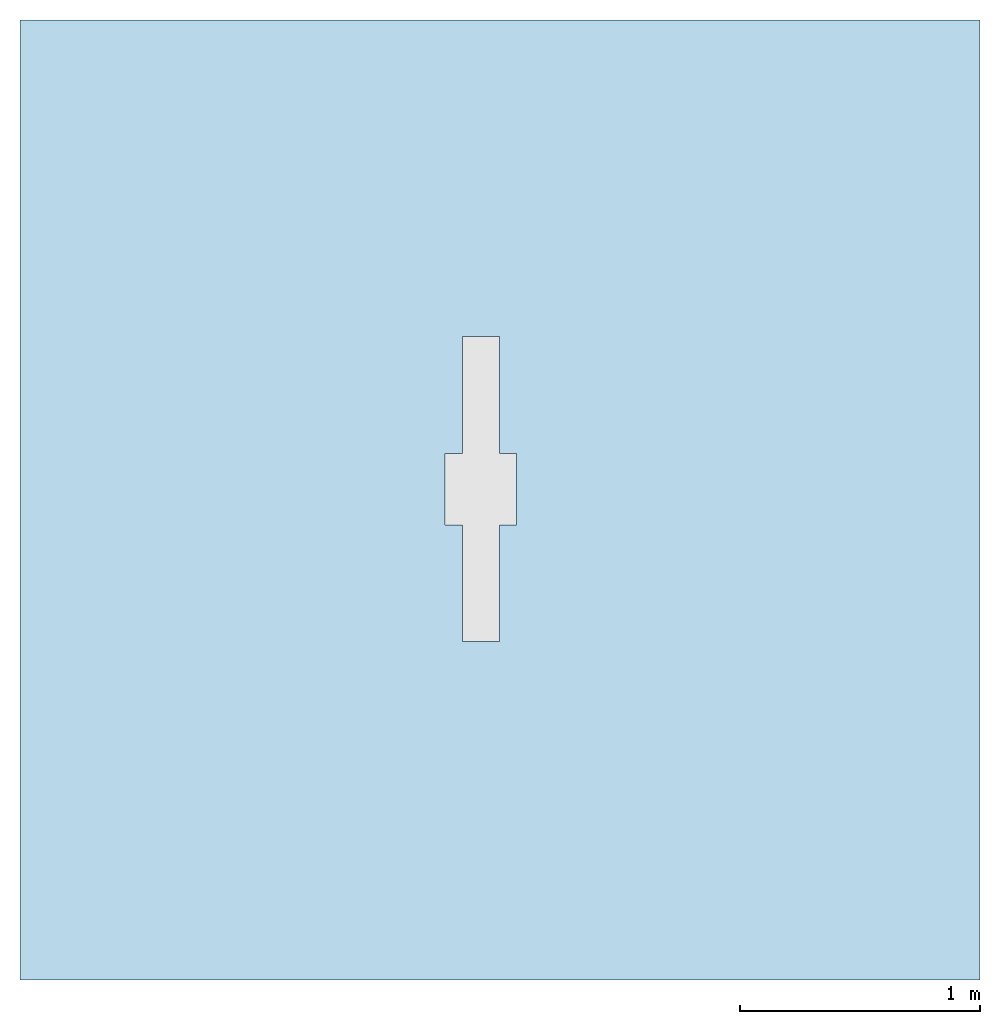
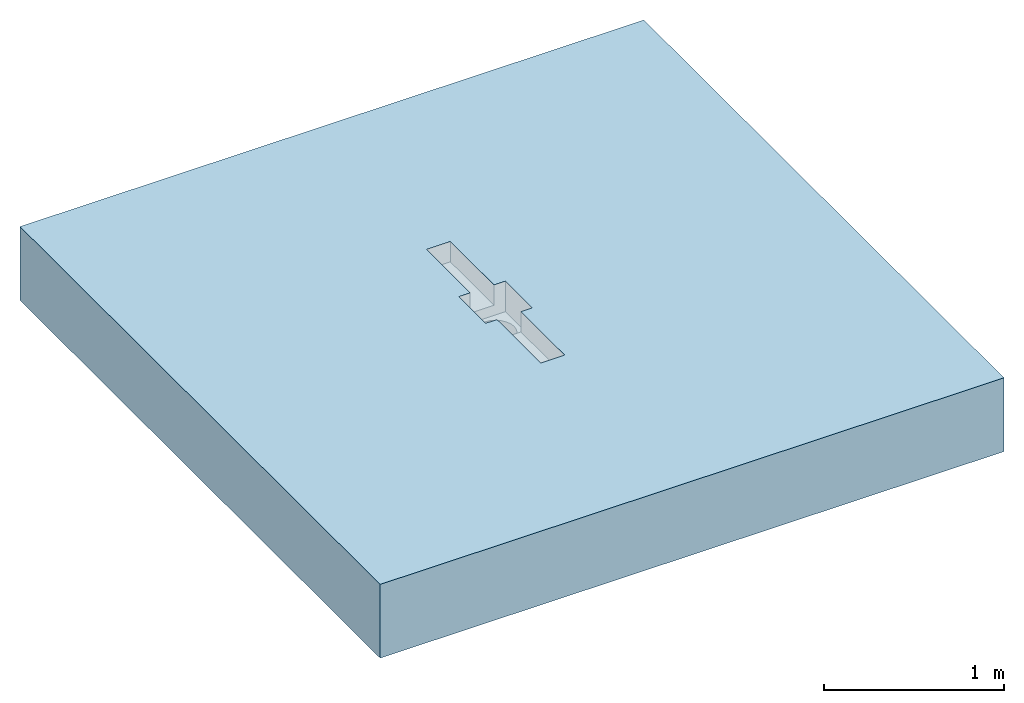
# One storey, incomplete: 1 slab, 1 opening.
"""IFC2X3 building model written with IfcOpenShell, lengths in millimetres."""

from ifc_helpers import new_model, entity, si_unit, converted_unit, direction, frame, frame_2d, origin, place, context, subcontext, project, spatial, rectangle, extrude, faceted_brep, material, layer, layer_set, layer_usage, element, save


model = new_model("IFC2X3")

# Units and contexts
model_context = context("Model", 3, precision=1e-06, world=origin(), true_north=direction((2.0, 6.12303176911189e-17, 1.0)))
context_of_model = context(None, 3, precision=1e-06, world=origin(), true_north=direction((2.0, 6.12303176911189e-17, 1.0)))
body_context = subcontext(model_context, "Body", "Model", "MODEL_VIEW")
ifc_project = project(units=[si_unit("LENGTHUNIT", "METRE", prefix="MILLI"), si_unit("AREAUNIT", "SQUARE_METRE", prefix="MILLI"), si_unit("VOLUMEUNIT", "CUBIC_METRE", prefix="MILLI"), converted_unit("PLANEANGLEUNIT", "DEGREE", entity("IfcRatioMeasure", 0.0174532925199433), si_unit("PLANEANGLEUNIT", "RADIAN"), dimensions=[0, 0, 0, 0, 0, 0, 0]), si_unit("TIMEUNIT", "SECOND")], contexts=[model_context, context_of_model])

# Site, building, storey
site_placement = place(None, origin())
site = spatial("IfcSite", under=ifc_project, at=site_placement, Name="Default", CompositionType="ELEMENT")
building_placement = place(site_placement, origin())
building = spatial("IfcBuilding", under=site, at=building_placement, CompositionType="ELEMENT")
storey_placement = place(building_placement, origin())
storey = spatial("IfcBuildingStorey", under=building, at=storey_placement, Name="Level 1", CompositionType="ELEMENT", Elevation=0.0)

# Slab, opening
ifc_material = material(Name="Concrete, Broom Finish")
ifc_layer = layer(ifc_material, 500.0)
ifc_layer_set = layer_set([ifc_layer], Name="Floor:Generic Floor - 500mm")
ifc_layer_usage = layer_usage(ifc_layer_set, "AXIS3", "POSITIVE", 0.0)
slab_placement = place(storey_placement, origin())
slab = element("IfcSlab", 1, at=slab_placement, inside=storey, material=ifc_layer_usage, Name="Floor:Generic Floor - 500mm", ObjectType="Floor:Generic Floor - 500mm", PredefinedType="FLOOR", context=body_context, shape_type="SweptSolid", body=[
    extrude(rectangle(XDim=4000.0, YDim=4000.0, at=frame_2d((0.0, 0.0), x_axis=(-1.0, 0.0))), frame((-419.114478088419, -735.273497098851, 0.0), z_axis=(0.0, 0.0, -1.0), x_axis=(-1.0, 0.0, 0.0)), (0.0, 0.0, 1.0), 500.0),
])
opening_placement = place(slab_placement, frame((-647.542058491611, -1324.80594348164, -438.0)))
element("IfcOpeningElement", 2, at=opening_placement, cuts=slab, ObjectType="Recess", context=body_context, shape_type="Brep", body=[
    faceted_brep([(72.5000000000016, 0.0, 300.200000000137), (225.499999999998, 486.0, 300.200000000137), (72.5000000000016, 486.0, 300.200000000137), (225.499999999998, 0.0, 300.200000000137), (72.5000000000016, 784.0, 300.200000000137), (225.499999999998, 1270.0, 300.200000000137), (72.5000000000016, 1270.0, 300.200000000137), (225.499999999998, 784.0, 300.200000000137), (225.499999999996, 486.0, 438.0), (225.499999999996, 0.0, 438.0), (72.5000000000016, 486.0, 438.0), (72.5000000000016, 0.0, 438.0), (225.499999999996, 1270.0, 438.0), (225.499999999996, 784.0, 438.0), (72.5000000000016, 784.0, 438.0), (72.5000000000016, 1270.0, 438.0), (0.0, 784.0, 438.0), (298.0, 784.0, 438.0), (0.0, 486.0, 438.0), (298.0, 486.0, 438.0), (33.0889008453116, 666.058285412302, 231.750000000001), (45.076951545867, 695.0, 231.750000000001), (0.0, 784.0, 231.750000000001), (64.1471862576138, 719.852813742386, 231.750000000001), (29.0, 635.0, 231.750000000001), (117.941714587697, 750.911099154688, 231.750000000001), (149.0, 755.0, 231.750000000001), (89.0, 738.923048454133, 231.750000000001), (298.0, 784.0, 231.750000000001), (33.0889008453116, 603.941714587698, 231.750000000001), (0.0, 486.0, 231.750000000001), (45.0769515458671, 575.0, 231.750000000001), (64.1471862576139, 550.147186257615, 231.750000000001), (117.941714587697, 519.088900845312, 231.750000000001), (89.0, 531.076951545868, 231.750000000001), (149.0, 515.0, 231.750000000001), (180.058285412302, 750.911099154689, 231.750000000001), (209.0, 738.923048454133, 231.750000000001), (233.852813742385, 719.852813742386, 231.750000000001), (264.911099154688, 666.058285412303, 231.750000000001), (252.923048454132, 695.0, 231.750000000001), (269.0, 635.0, 231.750000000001), (298.0, 486.0, 231.750000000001), (209.0, 531.076951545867, 231.750000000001), (180.058285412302, 519.088900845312, 231.750000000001), (264.911099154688, 603.941714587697, 231.750000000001), (252.923048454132, 575.0, 231.750000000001), (233.852813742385, 550.147186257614, 231.750000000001), (180.058285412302, 750.911099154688, 0.0), (149.0, 755.0, 0.0), (233.852813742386, 719.852813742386, 0.0), (209.0, 738.923048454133, 0.0), (264.911099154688, 666.058285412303, 0.0), (252.923048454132, 695.0, 0.0), (45.0769515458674, 695.0, 0.0), (29.0, 635.0, 0.0), (64.1471862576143, 719.852813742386, 0.0), (89.0, 738.923048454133, 0.0), (117.941714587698, 750.911099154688, 0.0), (33.0889008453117, 666.058285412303, 0.0), (45.076951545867, 575.0, 0.0), (264.911099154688, 603.941714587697, 0.0), (64.1471862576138, 550.147186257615, 0.0), (252.923048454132, 575.0, 0.0), (233.852813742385, 550.147186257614, 0.0), (180.058285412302, 519.088900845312, 0.0), (209.0, 531.076951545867, 0.0), (33.0889008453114, 603.941714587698, 0.0), (117.941714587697, 519.088900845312, 0.0), (149.0, 515.0, 0.0), (89.0, 531.076951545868, 0.0), (269.0, 635.0, 0.0)], [[[0, 1, 2]], [[1, 0, 3]], [[4, 5, 6]], [[5, 4, 7]], [[3, 8, 1]], [[8, 3, 9]], [[0, 2, 10]], [[10, 11, 0]], [[7, 12, 5]], [[12, 7, 13]], [[14, 6, 15]], [[6, 14, 4]], [[6, 12, 15]], [[12, 6, 5]], [[9, 3, 0]], [[0, 11, 9]], [[10, 16, 14]], [[13, 14, 15]], [[15, 12, 13]], [[8, 13, 17]], [[13, 8, 14]], [[16, 10, 18]], [[8, 11, 10]], [[11, 8, 9]], [[17, 19, 8]], [[14, 8, 10]], [[20, 21, 22]], [[23, 22, 21]], [[24, 20, 22]], [[22, 25, 26]], [[22, 23, 27]], [[22, 27, 25]], [[26, 28, 22]], [[29, 24, 30]], [[22, 30, 24]], [[31, 29, 30]], [[30, 32, 31]], [[30, 33, 34]], [[30, 34, 32]], [[35, 33, 30]], [[28, 36, 37]], [[28, 37, 38]], [[39, 28, 40]], [[38, 40, 28]], [[28, 39, 41]], [[41, 42, 28]], [[28, 26, 36]], [[42, 43, 44]], [[42, 44, 35]], [[42, 45, 46]], [[43, 42, 47]], [[46, 47, 42]], [[42, 41, 45]], [[30, 42, 35]], [[7, 4, 22]], [[16, 22, 4]], [[17, 7, 28]], [[22, 28, 7]], [[4, 14, 16]], [[7, 17, 13]], [[17, 28, 42]], [[42, 19, 17]], [[2, 1, 42]], [[19, 42, 1]], [[18, 2, 30]], [[42, 30, 2]], [[1, 8, 19]], [[2, 18, 10]], [[18, 30, 22]], [[22, 16, 18]], [[48, 49, 50]], [[51, 48, 50]], [[52, 53, 50]], [[54, 50, 49]], [[52, 50, 55]], [[56, 54, 57]], [[49, 58, 57]], [[59, 55, 54]], [[54, 49, 57]], [[54, 55, 50]], [[55, 60, 52]], [[61, 52, 62]], [[63, 61, 64]], [[61, 65, 66]], [[64, 61, 66]], [[65, 61, 62]], [[52, 60, 62]], [[60, 55, 67]], [[68, 69, 70]], [[62, 70, 69]], [[65, 62, 69]], [[52, 61, 71]], [[60, 67, 29]], [[60, 31, 62]], [[68, 70, 34]], [[32, 70, 62]], [[69, 68, 33]], [[55, 24, 67]], [[24, 29, 67]], [[29, 31, 60]], [[31, 32, 62]], [[70, 32, 34]], [[34, 33, 68]], [[33, 35, 69]], [[66, 65, 44]], [[66, 43, 64]], [[61, 63, 46]], [[47, 63, 64]], [[71, 61, 45]], [[35, 44, 65]], [[44, 43, 66]], [[43, 47, 64]], [[47, 46, 63]], [[61, 46, 45]], [[45, 41, 71]], [[69, 35, 65]], [[39, 52, 71]], [[48, 51, 37]], [[50, 38, 51]], [[48, 36, 49]], [[41, 39, 71]], [[53, 52, 39]], [[40, 53, 39]], [[40, 50, 53]], [[40, 38, 50]], [[51, 38, 37]], [[37, 36, 48]], [[36, 26, 49]], [[57, 58, 25]], [[57, 27, 56]], [[59, 54, 21]], [[23, 54, 56]], [[55, 59, 20]], [[26, 25, 58]], [[25, 27, 57]], [[27, 23, 56]], [[23, 21, 54]], [[59, 21, 20]], [[20, 24, 55]], [[49, 26, 58]]]),
])

save(model, "model.ifc")
